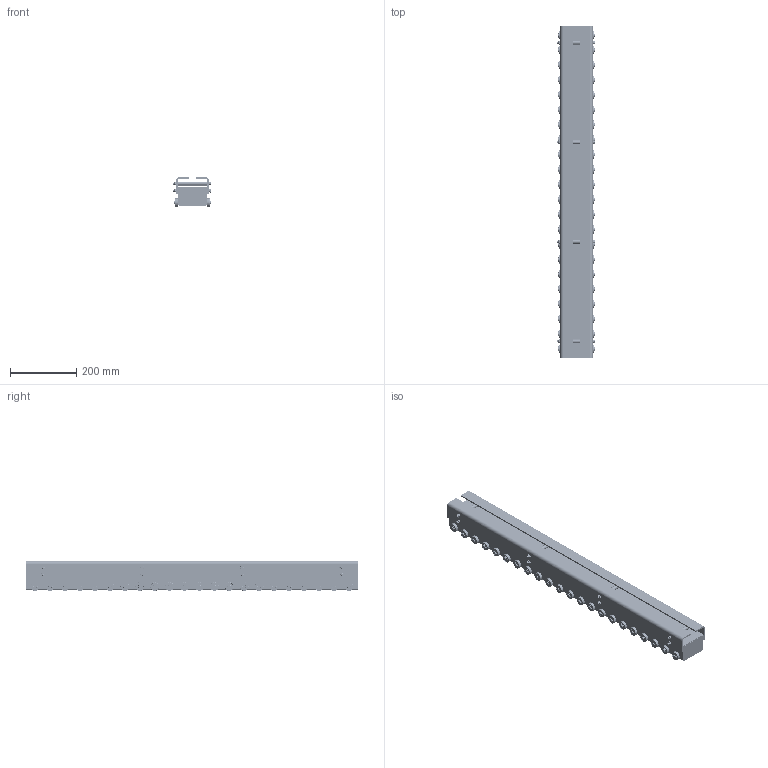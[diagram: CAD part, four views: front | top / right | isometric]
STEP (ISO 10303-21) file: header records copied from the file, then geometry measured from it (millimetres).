
FILE_DESCRIPTION(/* description */ (''),/* implementation_level */ '2;1');
FILE_NAME(/* name */ 'SPC-RSPO-085Wx087Hx1000L.step',/* time_stamp */ '2023-04-04T10:44:49+09:00',/* author */ (''),/* organization */ (''),/* preprocessor_version */ 'ST-DEVELOPER v19.2',/* originating_system */ 'Autodesk Translation Framework v11.17.0.187',/* authorisation */ '');
FILE_SCHEMA (('AUTOMOTIVE_DESIGN { 1 0 10303 214 3 1 1 }'));
Length unit declared in the file: millimetre
Products named in the file (61): SPC-RSPO-085Wx087Hx1000L; BODY1; BODY2; Bracket; bo-m6x110-JISB1180; UNUTKZ6; Shaft; 6000ZZ; Shaft_1; 6000ZZ_1; Shaft_2; 6000ZZ_2; Shaft_3; 6000ZZ_3; Shaft_4; 6000ZZ_4; Shaft_5; 6000ZZ_5; Shaft_6; 6000ZZ_6; Shaft_7; 6000ZZ_7; Shaft_8; 6000ZZ_8; Shaft_9; 6000ZZ_9; Shaft_10; 6000ZZ_10; Shaft_11; 6000ZZ_11; Shaft_12; 6000ZZ_12; Shaft_13; 6000ZZ_13; Shaft_14; 6000ZZ_14; Shaft_15; 6000ZZ_15; Shaft_16; 6000ZZ_16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
Assembly tree (361 placements, depth 4):
  SPC-RSPO-085Wx087Hx1000L
    BODY1
    BODY2
    Bracket
      bo-m6x110-JISB1180  x8
      UNUTKZ6  x8
    Shaft
      6000ZZ
        6000ZZ_shield  x2
        6000ZZ_or
        6000ZZ_ball  x7
        6000ZZ_cage
        6000ZZ_ir
      6000ZZ v1(ミラー)
        6000ZZ_shield(ミラー)  x2
        6000ZZ_or(ミラー)
        6000ZZ_ball(ミラー)  x7
        6000ZZ_cage(ミラー)
        6000ZZ_ir(ミラー)
    Shaft_1
      6000ZZ_1
        6000ZZ_shield  x2
        6000ZZ_or
        6000ZZ_ball  x7
        6000ZZ_cage
        6000ZZ_ir
      6000ZZ v1(ミラー)
        6000ZZ_shield(ミラー)  x2
        6000ZZ_or(ミラー)
        6000ZZ_ball(ミラー)  x7
        6000ZZ_cage(ミラー)
        6000ZZ_ir(ミラー)
    Shaft_2
      6000ZZ_2
        6000ZZ_shield  x2
        6000ZZ_or
        6000ZZ_ball  x7
        6000ZZ_cage
        6000ZZ_ir
      6000ZZ v1(ミラー)
        6000ZZ_shield(ミラー)  x2
        6000ZZ_or(ミラー)
        6000ZZ_ball(ミラー)  x7
        6000ZZ_cage(ミラー)
        6000ZZ_ir(ミラー)
    Shaft_3
      6000ZZ_3
        6000ZZ_shield  x2
        6000ZZ_or
        6000ZZ_ball  x7
        6000ZZ_cage
        6000ZZ_ir
      6000ZZ v1(ミラー)
        6000ZZ_shield(ミラー)  x2
        6000ZZ_or(ミラー)
        6000ZZ_ball(ミラー)  x7
        6000ZZ_cage(ミラー)
        6000ZZ_ir(ミラー)
    Shaft_4
      6000ZZ_4
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Bounding box: 114.7 x 1000 x 90 mm (x, y, z)
Volume: 1758866.7 mm3; surface area: 1371149 mm2
Topology: 706 solids, 706 shells, 4193 faces, 10072 edges, 6444 vertices
Faces by surface type: cylinder 1360, plane 1205, sphere 616, cone 564, torus 448
Full cylindrical faces by diameter (mm): 2 x44, 4.917 x8, 6 x8, 6.5 x8, 7 x24, 8 x12, 9 x8, 10 x96, 10.2 x88, 12 x4, 13.75 x176, 14 x8, 14.703 x88, 16 x88, 16.809 x44, 19.191 x44, 20.704 x88, 22.8 x176, 26 x44
Entity records: 49780 total; most frequent: CARTESIAN_POINT 14839, DIRECTION 7098, ORIENTED_EDGE 6298, EDGE_CURVE 3149, AXIS2_PLACEMENT_3D 2923, VERTEX_POINT 2058, EDGE_LOOP 1759, FACE_OUTER_BOUND 1394
